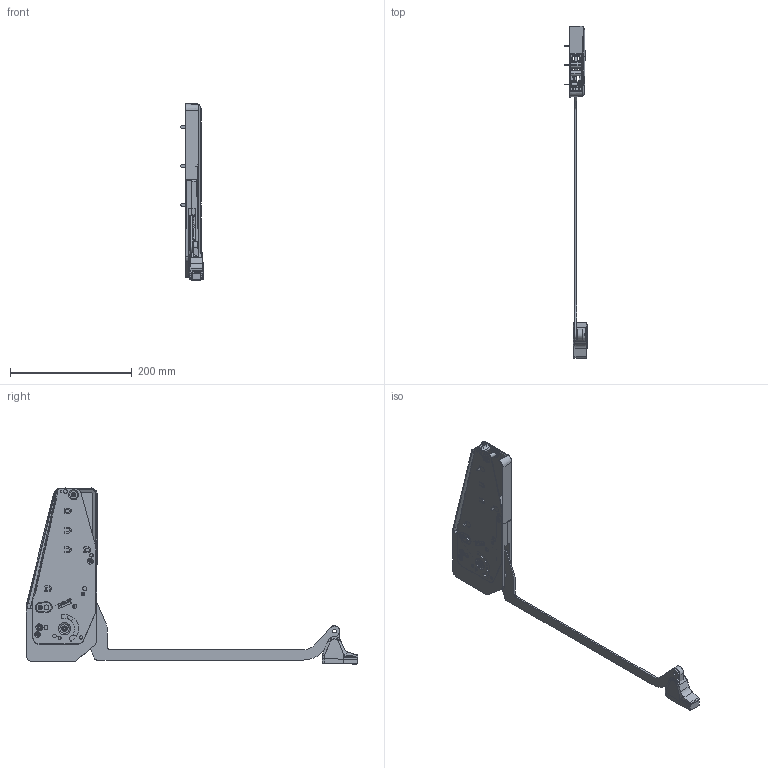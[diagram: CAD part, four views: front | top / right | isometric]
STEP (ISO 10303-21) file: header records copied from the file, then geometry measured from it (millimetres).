
FILE_DESCRIPTION((''),'2;1');
FILE_NAME('FLB_RECHTS_KUNDEN_ASM','2014-02-06T',('7ke10'),('RAND'),'PRO/ENGINEER BY PARAMETRIC TECHNOLOGY CORPORATION, 2011490','PRO/ENGINEER BY PARAMETRIC TECHNOLOGY CORPORATION, 2011490','');
FILE_SCHEMA(('AUTOMOTIVE_DESIGN_CC2 { 1 2 10303 214 -1 1 5 2 }'));
Products named in the file (25): 582728_MIR; 582729_MIR; 150693_MIR; 150694_MIR; 150699_MIR; 150700_MIR; 582731_MIR_ASM; 582647; 233597_MIR; 150776_MIR; 582467_MIR_ASM; 150697_MIR; 150698_MIR; MZ-121042-00_MIR; FLB_150783_MIR; 582667_MIR; 150777_MIR; 582687_MIR_ASM; 582668_MIR; 582669_MIR; 150779_MIR; 150780_MIR; 582683_MIR_ASM; 582685_MIR_ASM; FLB_RECHTS_KUNDEN_ASM
Assembly tree (29 placements, depth 4):
  FLB_RECHTS_KUNDEN_ASM
    582731_MIR_ASM
      582728_MIR
      582729_MIR
      150693_MIR
      150694_MIR
      150699_MIR
      150700_MIR  x2
    582467_MIR_ASM
      582647
      233597_MIR
      150776_MIR
    150697_MIR
    150699_MIR
    150698_MIR
    MZ-121042-00_MIR  x3
    FLB_150783_MIR
    582685_MIR_ASM
      582687_MIR_ASM
        582667_MIR
        150777_MIR  x2
      582683_MIR_ASM
        582668_MIR
        582669_MIR
        150779_MIR
        150780_MIR
Bounding box: 37.05 x 546.23 x 289.78 mm (x, y, z)
Volume: 302367.4 mm3; surface area: 267985.4 mm2
Topology: 25 solids, 33 shells, 3009 faces, 7870 edges, 5032 vertices
Faces by surface type: plane 1440, cylinder 845, bspline 242, cone 181, extrusion 164, torus 121, sphere 16
Entity records: 132126 total; most frequent: CARTESIAN_POINT 37248, ORIENTED_EDGE 15336, DIRECTION 14027, EDGE_CURVE 7668, PRESENTATION_STYLE_ASSIGNMENT 7600, STYLED_ITEM 7600, CURVE_STYLE 7582, VERTEX_POINT 4905
